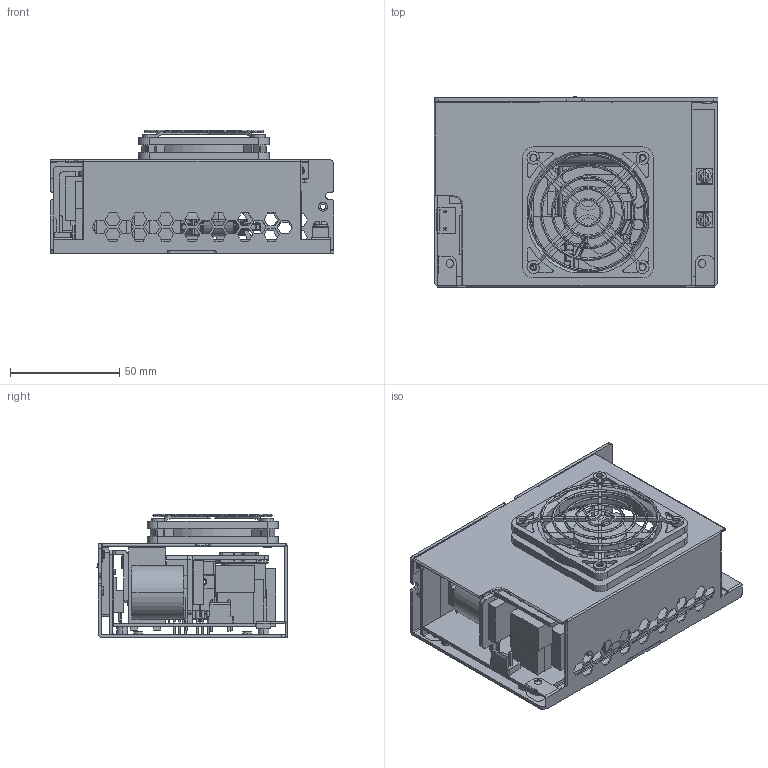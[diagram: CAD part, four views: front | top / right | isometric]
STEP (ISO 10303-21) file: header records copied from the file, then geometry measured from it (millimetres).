
FILE_DESCRIPTION(('Creo Elements/Direct Modeling STEP Export'),'2;1');
FILE_NAME('500.stp','2021-01-26T 9:55:40',(''),(''),'PTC Creo Elements/Direct Modeling STEP processor for AP214 (Solid Model)','PTC Creo Elements/Direct Modeling 19.0 09-May-2014 (C) Parametric Technology GmbH','');
FILE_SCHEMA(('AUTOMOTIVE_DESIGN { 1 0 10303 214 1 1 1 1 }'));
Length unit declared in the file: millimetre
Products named in the file (47): PCB板; 温度开关.1; x电容; 温度开关; 继电器; X电容; U型卡扣; TO220(2); BD1; LF1; LF3; LF2; 1HH135.4x32-3R5; T1; PIN2-2; HS3; HS-SZ083; L1; HS2; HS-SZ085; HS-SZ089; 1GG2MHSSZ007; PCB-A板; C2; C1; 板; PCB-C板; 8_2.PRT; P1_1.PRT; JS1120R_1.ASM; JS1120R_1_1.PRT; A1.ASM; R.PRT; fan_a.1.1; FAN_4715KL40WB30_2; FAN-ALL; RPS-500-TF; PCB; RPS-500-SF; HS-SZ080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
Assembly tree (53 placements, depth 5):
  a1
    top
    CASE
      RPS-500-C
        269A-D
      RPS-500
        HS-SZ080
      RPS-500-SF
    PCB
      RPS-500-TF
        FAN-ALL
          FAN_4715KL40WB30_2
          fan_a.1.1
      R.PRT  x2
      A1.ASM
        JS1120R_1_1.PRT
        JS1120R_1.ASM
          P1_1.PRT
          8_2.PRT  x2
      PCB-C板
        板
        C1
        C2
      PCB-A板
        1GG2MHSSZ007
        HS-SZ089
        HS-SZ085
          HS2
          PIN2-2
        U型卡扣  x2
        L1
        HS-SZ083
          HS3
          PIN2-2
        T1
          T1
        1HH135.4x32-3R5
        LF2
        LF3
        LF1
        BD1
        TO220(2)  x4
        X电容
        继电器
        温度开关
        x电容
        温度开关.1
        PCB板
Bounding box: 130.01 x 87.1 x 56.54 mm (x, y, z)
Volume: 151440.3 mm3; surface area: 161105.1 mm2
Topology: 38 solids, 38 shells, 2321 faces, 6098 edges, 3830 vertices
Faces by surface type: plane 1134, cylinder 832, torus 230, bspline 51, sphere 48, cone 26
Entity records: 74614 total; most frequent: CARTESIAN_POINT 20884, ORIENTED_EDGE 11340, DIRECTION 10515, EDGE_CURVE 5670, AXIS2_PLACEMENT_3D 3615, VERTEX_POINT 3594, VECTOR 3285, LINE 3285
